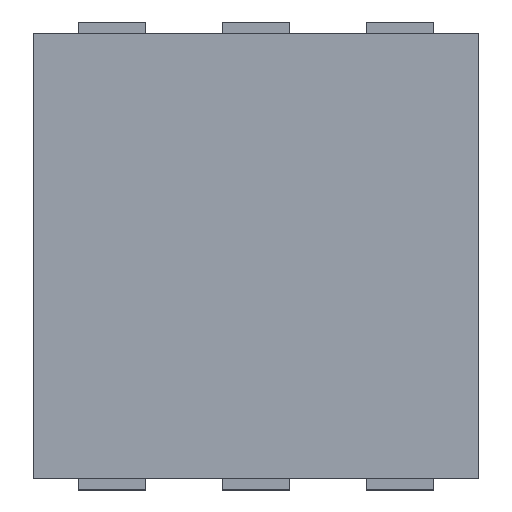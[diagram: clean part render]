
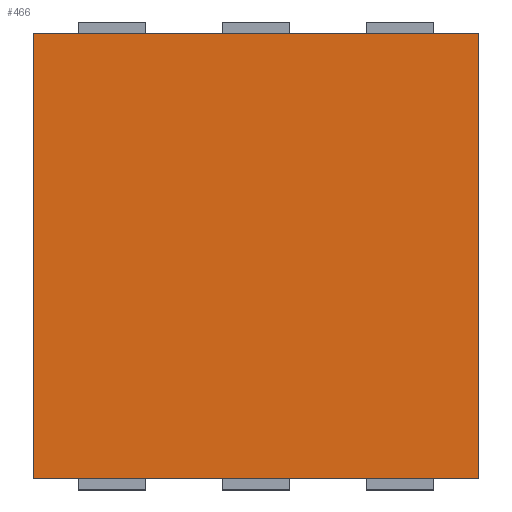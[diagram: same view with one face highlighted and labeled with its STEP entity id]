
A CAD part, top view. The second image highlights one B-rep face of the part: STEP entity #466.
In plain terms, the highlighted planar face has unit normal (0, 0, 1).
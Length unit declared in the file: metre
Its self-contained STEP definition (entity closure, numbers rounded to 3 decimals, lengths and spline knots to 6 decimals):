
#442 = EDGE_CURVE( '', #750, #1012, #1013, .T. );
#466 = ADVANCED_FACE( '', ( #1046 ), #1047, .F. );
#584 = EDGE_CURVE( '', #882, #750, #1195, .T. );
#598 = EDGE_CURVE( '', #1012, #1212, #1213, .T. );
#622 = EDGE_CURVE( '', #1212, #882, #1241, .T. );
#750 = VERTEX_POINT( '', #1382 );
#882 = VERTEX_POINT( '', #1562 );
#1012 = VERTEX_POINT( '', #1752 );
#1013 = LINE( '', #1753, #1754 );
#1046 = FACE_OUTER_BOUND( '', #1799, .T. );
#1047 = PLANE( '', #1800 );
#1195 = LINE( '', #2037, #2038 );
#1212 = VERTEX_POINT( '', #2062 );
#1213 = LINE( '', #2063, #2064 );
#1241 = LINE( '', #2107, #2108 );
#1382 = CARTESIAN_POINT( '', ( -0.001011, -0.000995, 0.000813 ) );
#1562 = CARTESIAN_POINT( '', ( -0.001011, 0.001011, 0.000813 ) );
#1752 = CARTESIAN_POINT( '', ( 0.000995, -0.000995, 0.000813 ) );
#1753 = CARTESIAN_POINT( '', ( -0.001011, -0.000995, 0.000813 ) );
#1754 = VECTOR( '', #2535, 1. );
#1799 = EDGE_LOOP( '', ( #2587, #2588, #2589, #2590 ) );
#1800 = AXIS2_PLACEMENT_3D( '', #2591, #2592, #2593 );
#2037 = CARTESIAN_POINT( '', ( -0.001011, 0.001011, 0.000813 ) );
#2038 = VECTOR( '', #2756, 1. );
#2062 = CARTESIAN_POINT( '', ( 0.000995, 0.001011, 0.000813 ) );
#2063 = CARTESIAN_POINT( '', ( 0.000995, -0.000995, 0.000813 ) );
#2064 = VECTOR( '', #2788, 1. );
#2107 = CARTESIAN_POINT( '', ( 0.000995, 0.001011, 0.000813 ) );
#2108 = VECTOR( '', #2830, 1. );
#2535 = DIRECTION( '', ( 1., 0., 0. ) );
#2587 = ORIENTED_EDGE( '', *, *, #622, .T. );
#2588 = ORIENTED_EDGE( '', *, *, #584, .T. );
#2589 = ORIENTED_EDGE( '', *, *, #442, .T. );
#2590 = ORIENTED_EDGE( '', *, *, #598, .T. );
#2591 = CARTESIAN_POINT( '', ( 0.000995, -0.000995, 0.000813 ) );
#2592 = DIRECTION( '', ( 0., 0., -1. ) );
#2593 = DIRECTION( '', ( 0., -1., 0. ) );
#2756 = DIRECTION( '', ( 0., -1., 0. ) );
#2788 = DIRECTION( '', ( 0., 1., 0. ) );
#2830 = DIRECTION( '', ( -1., 0., 0. ) );
